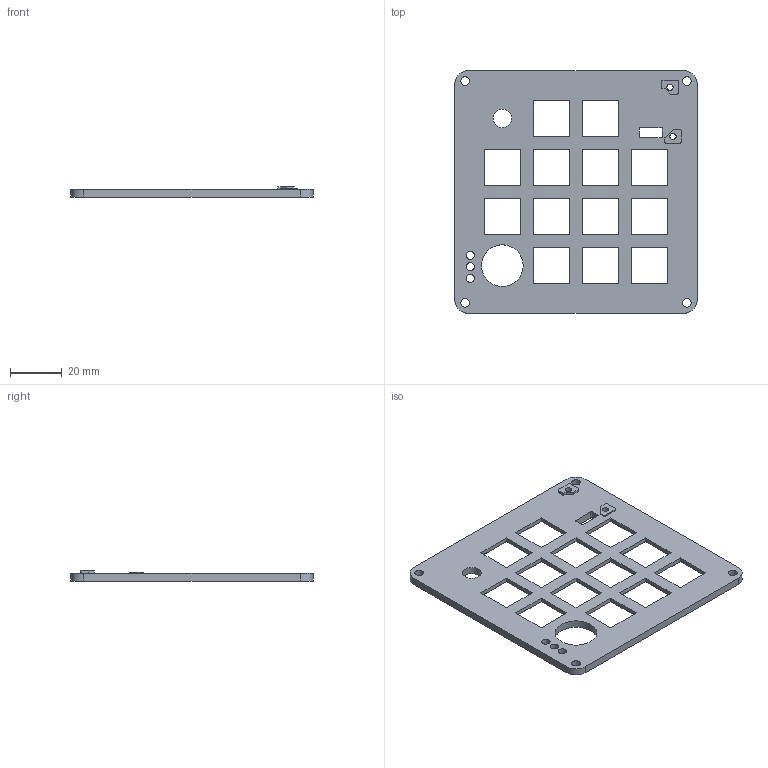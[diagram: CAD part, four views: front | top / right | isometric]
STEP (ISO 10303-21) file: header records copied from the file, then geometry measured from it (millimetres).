
FILE_DESCRIPTION(('Open CASCADE Model'),'2;1');
FILE_NAME('Open CASCADE Shape Model','2026-09-14T20:18:48',('Author'),( 'Open CASCADE'),'Open CASCADE STEP processor 7.9','Open CASCADE 7.9' ,'Unknown');
FILE_SCHEMA(('AUTOMOTIVE_DESIGN { 1 0 10303 214 1 1 1 1 }'));
Length unit declared in the file: millimetre
Products named in the file (1): Open CASCADE STEP translator 7.9 2
Bounding box: 94 x 94 x 4 mm (x, y, z)
Volume: 16141.3 mm3; surface area: 15874.2 mm2
Topology: 1 solids, 1 shells, 171 faces, 459 edges, 306 vertices
Faces by surface type: plane 146, cylinder 25
Full cylindrical faces by diameter (mm): 2.4 x2, 3.2 x3, 3.4 x4, 7.2 x1, 16.2 x1
Entity records: 11440 total; most frequent: CARTESIAN_POINT 2063, DIRECTION 1723, LINE 1261, VECTOR 1261, ORIENTED_EDGE 918, PCURVE 918, DEFINITIONAL_REPRESENTATION 918, EDGE_CURVE 459
